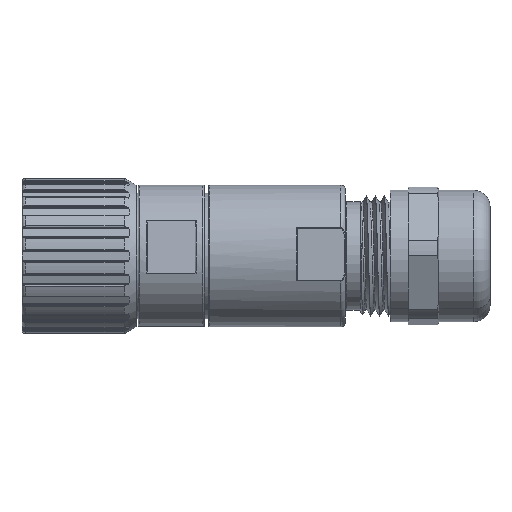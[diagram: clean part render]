
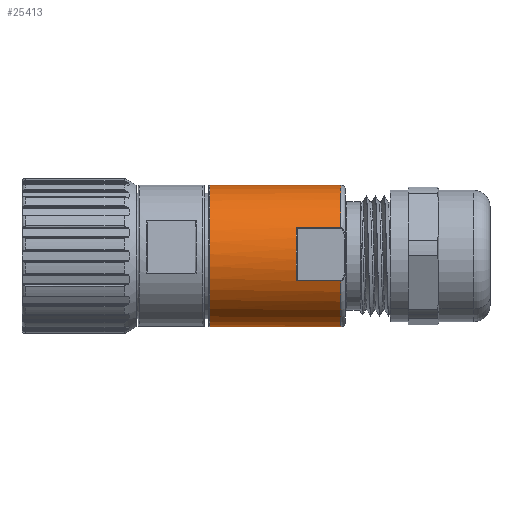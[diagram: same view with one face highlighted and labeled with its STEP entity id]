
A CAD part, front view. The second image highlights one B-rep face of the part: STEP entity #25413.
In plain terms, the highlighted cylindrical face has radius 11.8 mm (diameter 23.6 mm), a partial arc.
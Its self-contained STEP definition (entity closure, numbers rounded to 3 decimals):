
#920 = DIRECTION ( 'NONE',  ( 0., 0.025, 1. ) ) ;
#1184 = CARTESIAN_POINT ( 'NONE',  ( 29.318, 22.791, 45.698 ) ) ;
#2196 = LINE ( 'NONE', #1184, #28592 ) ;
#2349 = EDGE_CURVE ( 'NONE', #14830, #29286, #13743, .T. ) ;
#2931 = ORIENTED_EDGE ( 'NONE', *, *, #21783, .F. ) ;
#4201 = AXIS2_PLACEMENT_3D ( 'NONE', #6307, #8441, #31578 ) ;
#4392 = CARTESIAN_POINT ( 'NONE',  ( 52.068, 22.791, 45.698 ) ) ;
#4467 = VERTEX_POINT ( 'NONE', #32412 ) ;
#4583 = VECTOR ( 'NONE', #9525, 1000. ) ;
#4637 = CARTESIAN_POINT ( 'NONE',  ( 52.068, 11.669, 38.601 ) ) ;
#4922 = VECTOR ( 'NONE', #7716, 1000. ) ;
#5162 = AXIS2_PLACEMENT_3D ( 'NONE', #23890, #6401, #21301 ) ;
#5854 = FACE_OUTER_BOUND ( 'NONE', #29362, .T. ) ;
#6307 = CARTESIAN_POINT ( 'NONE',  ( 52.068, 22.493, 33.902 ) ) ;
#6401 = DIRECTION ( 'NONE',  ( 1., 0., 0. ) ) ;
#6779 = CARTESIAN_POINT ( 'NONE',  ( 44.668, 11.669, 38.601 ) ) ;
#7716 = DIRECTION ( 'NONE',  ( 1., 0., 0. ) ) ;
#7753 = CARTESIAN_POINT ( 'NONE',  ( 52.068, 22.493, 33.902 ) ) ;
#8441 = DIRECTION ( 'NONE',  ( -1., 0., 0. ) ) ;
#8773 = DIRECTION ( 'NONE',  ( -1., 0., 0. ) ) ;
#9080 = CARTESIAN_POINT ( 'NONE',  ( 52.068, 11.446, 29.755 ) ) ;
#9235 = VECTOR ( 'NONE', #21729, 1000. ) ;
#9525 = DIRECTION ( 'NONE',  ( -1., 0., 0. ) ) ;
#10683 = DIRECTION ( 'NONE',  ( 0., 0.025, 1. ) ) ;
#11361 = LINE ( 'NONE', #24865, #4583 ) ;
#11791 = CARTESIAN_POINT ( 'NONE',  ( 29.318, 11.446, 29.755 ) ) ;
#13536 = DIRECTION ( 'NONE',  ( -1., 0., 0. ) ) ;
#13644 = VERTEX_POINT ( 'NONE', #27334 ) ;
#13645 = CARTESIAN_POINT ( 'NONE',  ( 44.668, 22.493, 33.902 ) ) ;
#13743 = CIRCLE ( 'NONE', #4201, 11.8 ) ;
#14830 = VERTEX_POINT ( 'NONE', #18956 ) ;
#15043 = EDGE_CURVE ( 'NONE', #29286, #4467, #24469, .T. ) ;
#15361 = AXIS2_PLACEMENT_3D ( 'NONE', #18539, #28457, #10683 ) ;
#16546 = EDGE_CURVE ( 'NONE', #4467, #26677, #23095, .T. ) ;
#16616 = ORIENTED_EDGE ( 'NONE', *, *, #21293, .T. ) ;
#17055 = CYLINDRICAL_SURFACE ( 'NONE', #15361, 11.8 ) ;
#17749 = DIRECTION ( 'NONE',  ( 0., 0.025, 1. ) ) ;
#18539 = CARTESIAN_POINT ( 'NONE',  ( 29.318, 22.493, 33.902 ) ) ;
#18763 = AXIS2_PLACEMENT_3D ( 'NONE', #13645, #13536, #920 ) ;
#18956 = CARTESIAN_POINT ( 'NONE',  ( 52.068, 22.196, 22.106 ) ) ;
#20426 = DIRECTION ( 'NONE',  ( -1., 0., 0. ) ) ;
#21293 = EDGE_CURVE ( 'NONE', #26200, #30893, #2196, .T. ) ;
#21301 = DIRECTION ( 'NONE',  ( 0., 0.025, 1. ) ) ;
#21643 = EDGE_CURVE ( 'NONE', #30893, #13644, #23014, .T. ) ;
#21729 = DIRECTION ( 'NONE',  ( -1., 0., 0. ) ) ;
#21783 = EDGE_CURVE ( 'NONE', #14830, #13644, #11361, .T. ) ;
#22239 = ORIENTED_EDGE ( 'NONE', *, *, #15043, .T. ) ;
#22881 = ORIENTED_EDGE ( 'NONE', *, *, #16546, .T. ) ;
#22929 = CIRCLE ( 'NONE', #32178, 11.8 ) ;
#22931 = EDGE_CURVE ( 'NONE', #27682, #26200, #22929, .T. ) ;
#23014 = CIRCLE ( 'NONE', #5162, 11.8 ) ;
#23095 = CIRCLE ( 'NONE', #18763, 11.8 ) ;
#23890 = CARTESIAN_POINT ( 'NONE',  ( 30.268, 22.493, 33.902 ) ) ;
#24088 = ORIENTED_EDGE ( 'NONE', *, *, #22931, .T. ) ;
#24469 = LINE ( 'NONE', #11791, #9235 ) ;
#24865 = CARTESIAN_POINT ( 'NONE',  ( 29.318, 22.196, 22.106 ) ) ;
#25413 = ADVANCED_FACE ( 'NONE', ( #5854 ), #17055, .T. ) ;
#25637 = CARTESIAN_POINT ( 'NONE',  ( 29.318, 11.669, 38.601 ) ) ;
#26200 = VERTEX_POINT ( 'NONE', #4392 ) ;
#26677 = VERTEX_POINT ( 'NONE', #6779 ) ;
#27334 = CARTESIAN_POINT ( 'NONE',  ( 30.268, 22.196, 22.106 ) ) ;
#27682 = VERTEX_POINT ( 'NONE', #4637 ) ;
#28457 = DIRECTION ( 'NONE',  ( -1., 0., 0. ) ) ;
#28562 = ORIENTED_EDGE ( 'NONE', *, *, #29513, .T. ) ;
#28592 = VECTOR ( 'NONE', #8773, 1000. ) ;
#29286 = VERTEX_POINT ( 'NONE', #9080 ) ;
#29362 = EDGE_LOOP ( 'NONE', ( #2931, #32810, #22239, #22881, #28562, #24088, #16616, #30088 ) ) ;
#29513 = EDGE_CURVE ( 'NONE', #26677, #27682, #31702, .T. ) ;
#30088 = ORIENTED_EDGE ( 'NONE', *, *, #21643, .T. ) ;
#30893 = VERTEX_POINT ( 'NONE', #31740 ) ;
#31578 = DIRECTION ( 'NONE',  ( 0., 0.025, 1. ) ) ;
#31702 = LINE ( 'NONE', #25637, #4922 ) ;
#31740 = CARTESIAN_POINT ( 'NONE',  ( 30.268, 22.791, 45.698 ) ) ;
#32178 = AXIS2_PLACEMENT_3D ( 'NONE', #7753, #20426, #17749 ) ;
#32412 = CARTESIAN_POINT ( 'NONE',  ( 44.668, 11.446, 29.755 ) ) ;
#32810 = ORIENTED_EDGE ( 'NONE', *, *, #2349, .T. ) ;
